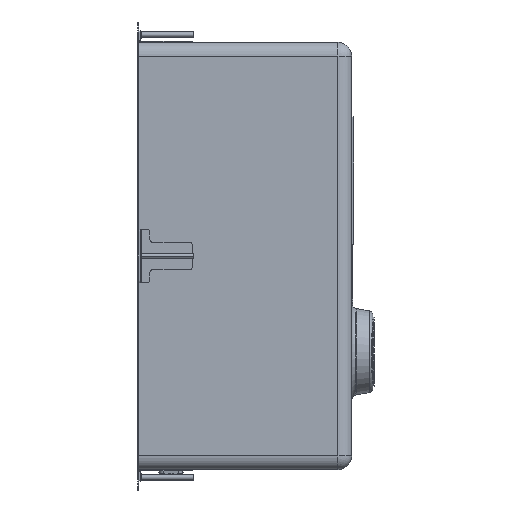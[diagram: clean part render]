
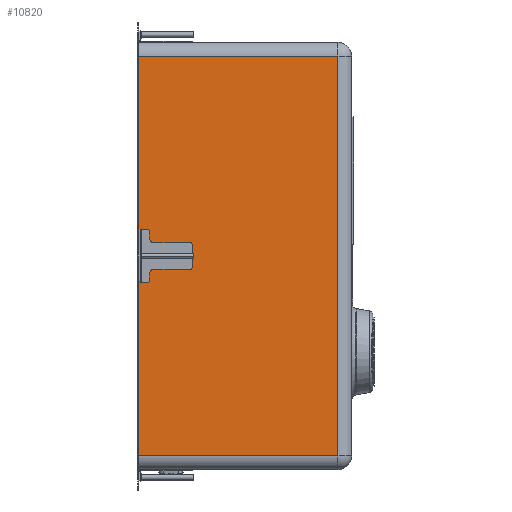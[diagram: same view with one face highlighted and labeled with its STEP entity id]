
A CAD part, left-side view. The second image highlights one B-rep face of the part: STEP entity #10820.
In plain terms, the highlighted planar face has unit normal (-1, 0, 0).
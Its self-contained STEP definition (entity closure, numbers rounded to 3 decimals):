
#236 = ORIENTED_EDGE ( 'NONE', *, *, #3205, .F. ) ;
#462 = DIRECTION ( 'NONE',  ( 0., 0., -1. ) ) ;
#555 = CARTESIAN_POINT ( 'NONE',  ( 19.1, -188., 32. ) ) ;
#840 = EDGE_CURVE ( 'NONE', #6759, #6707, #5595, .T. ) ;
#860 = CARTESIAN_POINT ( 'NONE',  ( 19.1, -200., 20. ) ) ;
#2028 = DIRECTION ( 'NONE',  ( 0., 0., 1. ) ) ;
#2312 = LINE ( 'NONE', #4960, #9208 ) ;
#2423 = DIRECTION ( 'NONE',  ( 0., -1., 0. ) ) ;
#2544 = PLANE ( 'NONE',  #10768 ) ;
#2767 = FACE_OUTER_BOUND ( 'NONE', #5950, .T. ) ;
#3205 = EDGE_CURVE ( 'NONE', #6954, #6759, #2312, .T. ) ;
#3807 = ORIENTED_EDGE ( 'NONE', *, *, #9131, .F. ) ;
#3877 = CARTESIAN_POINT ( 'NONE',  ( 19.1, -188., 20. ) ) ;
#4501 = DIRECTION ( 'NONE',  ( 0., 0., 1. ) ) ;
#4659 = CARTESIAN_POINT ( 'NONE',  ( 19.1, -0.9, 408. ) ) ;
#4921 = ORIENTED_EDGE ( 'NONE', *, *, #9289, .F. ) ;
#4960 = CARTESIAN_POINT ( 'NONE',  ( 19.1, -200., 32. ) ) ;
#5595 = LINE ( 'NONE', #9086, #6062 ) ;
#5950 = EDGE_LOOP ( 'NONE', ( #6448, #236, #3807, #4921 ) ) ;
#6062 = VECTOR ( 'NONE', #2028, 1000. ) ;
#6448 = ORIENTED_EDGE ( 'NONE', *, *, #840, .F. ) ;
#6480 = CARTESIAN_POINT ( 'NONE',  ( 19.1, -188., 408. ) ) ;
#6684 = CARTESIAN_POINT ( 'NONE',  ( 19.1, -200., 408. ) ) ;
#6707 = VERTEX_POINT ( 'NONE', #4659 ) ;
#6759 = VERTEX_POINT ( 'NONE', #10890 ) ;
#6954 = VERTEX_POINT ( 'NONE', #555 ) ;
#8452 = DIRECTION ( 'NONE',  ( 0., 1., 0. ) ) ;
#9086 = CARTESIAN_POINT ( 'NONE',  ( 19.1, -0.9, 0. ) ) ;
#9131 = EDGE_CURVE ( 'NONE', #9992, #6954, #9940, .T. ) ;
#9208 = VECTOR ( 'NONE', #8452, 1000. ) ;
#9289 = EDGE_CURVE ( 'NONE', #6707, #9992, #11036, .T. ) ;
#9456 = VECTOR ( 'NONE', #462, 1000. ) ;
#9538 = DIRECTION ( 'NONE',  ( -1., 0., 0. ) ) ;
#9940 = LINE ( 'NONE', #3877, #9456 ) ;
#9992 = VERTEX_POINT ( 'NONE', #6480 ) ;
#10768 = AXIS2_PLACEMENT_3D ( 'NONE', #860, #9538, #4501 ) ;
#10820 = ADVANCED_FACE ( 'NONE', ( #2767 ), #2544, .T. ) ;
#10890 = CARTESIAN_POINT ( 'NONE',  ( 19.1, -0.9, 32. ) ) ;
#10920 = VECTOR ( 'NONE', #2423, 1000. ) ;
#11036 = LINE ( 'NONE', #6684, #10920 ) ;
